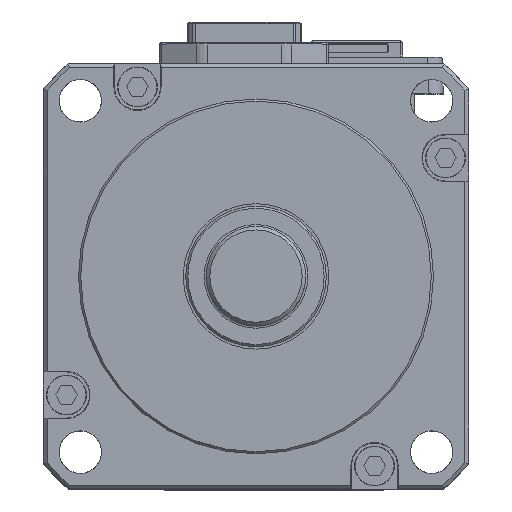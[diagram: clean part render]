
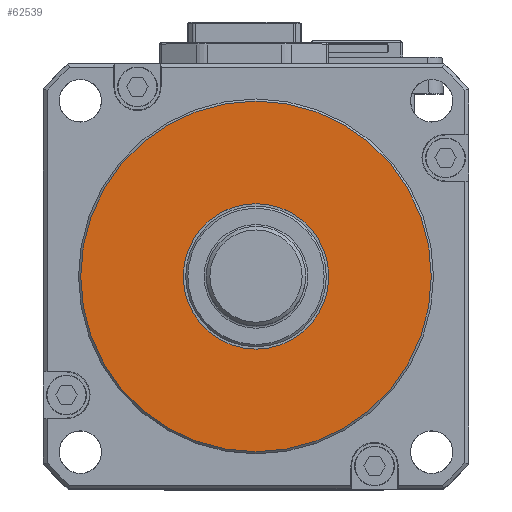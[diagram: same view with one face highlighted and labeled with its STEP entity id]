
A CAD part, top view. The second image highlights one B-rep face of the part: STEP entity #62539.
In plain terms, the highlighted planar face has unit normal (0, 0, 1).
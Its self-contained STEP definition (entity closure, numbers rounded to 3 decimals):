
#2580 = AXIS2_PLACEMENT_3D ( 'NONE', #29074, #27866, #4054 ) ;
#4054 = DIRECTION ( 'NONE',  ( 1., 0., 0. ) ) ;
#4399 = EDGE_LOOP ( 'NONE', ( #11472 ) ) ;
#8179 = EDGE_CURVE ( 'NONE', #30650, #30650, #23908, .T. ) ;
#9895 = FACE_OUTER_BOUND ( 'NONE', #4399, .T. ) ;
#10207 = CARTESIAN_POINT ( 'NONE',  ( 0., 0., 10. ) ) ;
#10845 = AXIS2_PLACEMENT_3D ( 'NONE', #13263, #18303, #25705 ) ;
#11472 = ORIENTED_EDGE ( 'NONE', *, *, #8179, .T. ) ;
#12298 = CARTESIAN_POINT ( 'NONE',  ( 24.7, 0., 10. ) ) ;
#13263 = CARTESIAN_POINT ( 'NONE',  ( 0., 0., 10. ) ) ;
#18303 = DIRECTION ( 'NONE',  ( 0., 0., 1. ) ) ;
#20314 = DIRECTION ( 'NONE',  ( 1., 0., 0. ) ) ;
#23631 = CARTESIAN_POINT ( 'NONE',  ( 10.25, 0., 10. ) ) ;
#23908 = CIRCLE ( 'NONE', #2580, 24.7 ) ;
#25086 = PLANE ( 'NONE',  #62642 ) ;
#25705 = DIRECTION ( 'NONE',  ( 1., 0., 0. ) ) ;
#27866 = DIRECTION ( 'NONE',  ( 0., 0., 1. ) ) ;
#29074 = CARTESIAN_POINT ( 'NONE',  ( 0., 0., 10. ) ) ;
#29207 = FACE_BOUND ( 'NONE', #42466, .T. ) ;
#30028 = CIRCLE ( 'NONE', #10845, 10.25 ) ;
#30650 = VERTEX_POINT ( 'NONE', #12298 ) ;
#39094 = VERTEX_POINT ( 'NONE', #23631 ) ;
#42466 = EDGE_LOOP ( 'NONE', ( #61534 ) ) ;
#44364 = DIRECTION ( 'NONE',  ( 0., 0., 1. ) ) ;
#58264 = EDGE_CURVE ( 'NONE', #39094, #39094, #30028, .T. ) ;
#61534 = ORIENTED_EDGE ( 'NONE', *, *, #58264, .F. ) ;
#62539 = ADVANCED_FACE ( 'NONE', ( #9895, #29207 ), #25086, .T. ) ;
#62642 = AXIS2_PLACEMENT_3D ( 'NONE', #10207, #44364, #20314 ) ;
